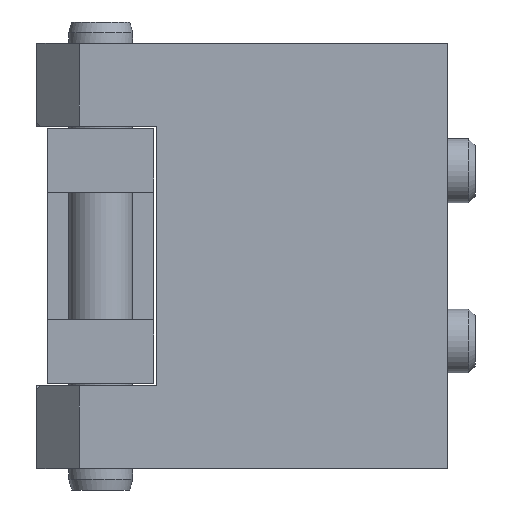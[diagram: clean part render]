
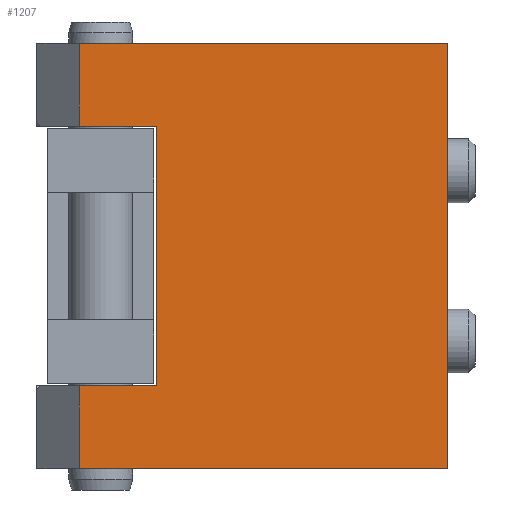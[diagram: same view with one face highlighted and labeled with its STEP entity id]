
A CAD part, left-side view. The second image highlights one B-rep face of the part: STEP entity #1207.
In plain terms, the highlighted planar face has unit normal (-1, 0, 0).
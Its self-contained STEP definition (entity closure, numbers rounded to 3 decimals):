
#84=LINE('',#1993,#174);
#87=LINE('',#1998,#177);
#90=LINE('',#2005,#180);
#103=LINE('',#2035,#193);
#107=LINE('',#2041,#197);
#116=LINE('',#2060,#206);
#117=LINE('',#2062,#207);
#118=LINE('',#2063,#208);
#174=VECTOR('',#1576,3.9);
#177=VECTOR('',#1581,3.6);
#180=VECTOR('',#1586,3.9);
#193=VECTOR('',#1611,3.6);
#197=VECTOR('',#1619,12.2);
#206=VECTOR('',#1638,17.32);
#207=VECTOR('',#1639,20.);
#208=VECTOR('',#1640,17.32);
#291=FACE_OUTER_BOUND('',#446,.T.);
#446=EDGE_LOOP('',(#1008,#1009,#1010,#1011,#1012,#1013,#1014,#1015));
#579=VERTEX_POINT('',#1990);
#580=VERTEX_POINT('',#1992);
#581=VERTEX_POINT('',#1996);
#583=VERTEX_POINT('',#2002);
#584=VERTEX_POINT('',#2004);
#595=VERTEX_POINT('',#2034);
#600=VERTEX_POINT('',#2059);
#601=VERTEX_POINT('',#2061);
#709=EDGE_CURVE('',#579,#580,#84,.T.);
#712=EDGE_CURVE('',#579,#581,#87,.T.);
#715=EDGE_CURVE('',#583,#584,#90,.T.);
#730=EDGE_CURVE('',#595,#584,#103,.T.);
#734=EDGE_CURVE('',#581,#595,#107,.T.);
#743=EDGE_CURVE('',#583,#600,#116,.T.);
#744=EDGE_CURVE('',#600,#601,#117,.T.);
#745=EDGE_CURVE('',#601,#580,#118,.T.);
#1008=ORIENTED_EDGE('',*,*,#712,.T.);
#1009=ORIENTED_EDGE('',*,*,#734,.T.);
#1010=ORIENTED_EDGE('',*,*,#730,.T.);
#1011=ORIENTED_EDGE('',*,*,#715,.F.);
#1012=ORIENTED_EDGE('',*,*,#743,.T.);
#1013=ORIENTED_EDGE('',*,*,#744,.T.);
#1014=ORIENTED_EDGE('',*,*,#745,.T.);
#1015=ORIENTED_EDGE('',*,*,#709,.F.);
#1085=PLANE('',#1323);
#1207=ADVANCED_FACE('',(#291),#1085,.T.);
#1323=AXIS2_PLACEMENT_3D('',#2058,#1636,#1637);
#1576=DIRECTION('',(0.,0.,1.));
#1581=DIRECTION('',(0.,-1.,0.));
#1586=DIRECTION('',(0.,0.,1.));
#1611=DIRECTION('',(0.,1.,0.));
#1619=DIRECTION('',(0.,0.,-1.));
#1636=DIRECTION('center_axis',(-1.,0.,0.));
#1637=DIRECTION('ref_axis',(0.,0.,1.));
#1638=DIRECTION('',(0.,-1.,0.));
#1639=DIRECTION('',(0.,0.,1.));
#1640=DIRECTION('',(0.,1.,0.));
#1990=CARTESIAN_POINT('',(-25.25,48.343,6.1));
#1992=CARTESIAN_POINT('',(-25.25,48.343,10.));
#1993=CARTESIAN_POINT('',(-25.25,48.343,0.));
#1996=CARTESIAN_POINT('',(-25.25,44.743,6.1));
#1998=CARTESIAN_POINT('',(-25.25,37.783,6.1));
#2002=CARTESIAN_POINT('',(-25.25,48.343,-10.));
#2004=CARTESIAN_POINT('',(-25.25,48.343,-6.1));
#2005=CARTESIAN_POINT('',(-25.25,48.343,0.));
#2034=CARTESIAN_POINT('',(-25.25,44.743,-6.1));
#2035=CARTESIAN_POINT('',(-25.25,37.783,-6.1));
#2041=CARTESIAN_POINT('',(-25.25,44.743,0.));
#2058=CARTESIAN_POINT('Origin',(-25.25,31.023,0.));
#2059=CARTESIAN_POINT('',(-25.25,31.023,-10.));
#2060=CARTESIAN_POINT('',(-25.25,48.343,-10.));
#2061=CARTESIAN_POINT('',(-25.25,31.023,10.));
#2062=CARTESIAN_POINT('',(-25.25,31.023,0.));
#2063=CARTESIAN_POINT('',(-25.25,48.343,10.));
